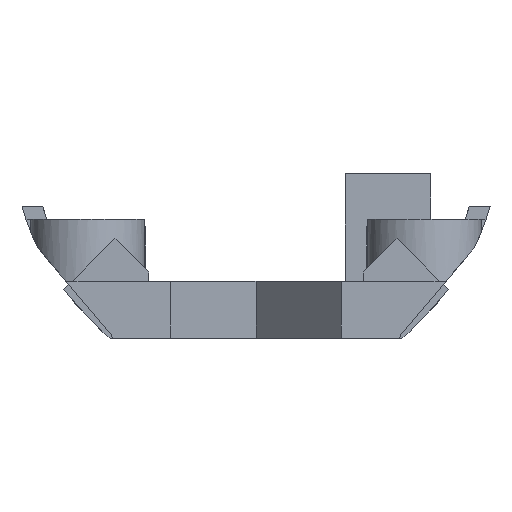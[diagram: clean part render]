
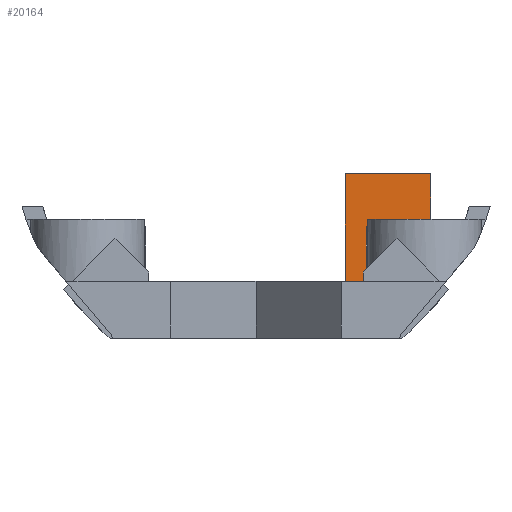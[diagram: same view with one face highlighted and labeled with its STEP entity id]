
A CAD part, left-side view. The second image highlights one B-rep face of the part: STEP entity #20164.
In plain terms, the highlighted planar face has unit normal (-1, 0, 0).
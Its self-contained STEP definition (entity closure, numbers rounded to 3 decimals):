
#32 = PLANE('',#33);
#33 = AXIS2_PLACEMENT_3D('',#34,#35,#36);
#34 = CARTESIAN_POINT('',(71.,-22.,-10.8));
#35 = DIRECTION('',(0.,0.,-1.));
#36 = DIRECTION('',(1.,0.,0.));
#1536 = PLANE('',#1537);
#1537 = AXIS2_PLACEMENT_3D('',#1538,#1539,#1540);
#1538 = CARTESIAN_POINT('',(66.,-59.724,44.8));
#1539 = DIRECTION('',(-0.,0.766,0.643));
#1540 = DIRECTION('',(0.,0.643,-0.766));
#1686 = VERTEX_POINT('',#1687);
#1687 = CARTESIAN_POINT('',(171.5,-6.9,-10.8));
#1701 = PLANE('',#1702);
#1702 = AXIS2_PLACEMENT_3D('',#1703,#1704,#1705);
#1703 = CARTESIAN_POINT('',(171.5,-6.9,-11.3));
#1704 = DIRECTION('',(-0.,1.,0.));
#1705 = DIRECTION('',(0.,0.,1.));
#1712 = EDGE_CURVE('',#1686,#1713,#1715,.T.);
#1713 = VERTEX_POINT('',#1714);
#1714 = CARTESIAN_POINT('',(171.5,-13.078,-10.8));
#1715 = SURFACE_CURVE('',#1716,(#1720,#1727),.PCURVE_S1.);
#1716 = LINE('',#1717,#1718);
#1717 = CARTESIAN_POINT('',(171.5,-17.75,-10.8));
#1718 = VECTOR('',#1719,1.);
#1719 = DIRECTION('',(0.,-1.,0.));
#1720 = PCURVE('',#32,#1721);
#1721 = DEFINITIONAL_REPRESENTATION('',(#1722),#1726);
#1722 = LINE('',#1723,#1724);
#1723 = CARTESIAN_POINT('',(100.5,-4.25));
#1724 = VECTOR('',#1725,1.);
#1725 = DIRECTION('',(0.,1.));
#1726 = ( GEOMETRIC_REPRESENTATION_CONTEXT(2) 
PARAMETRIC_REPRESENTATION_CONTEXT() REPRESENTATION_CONTEXT('2D SPACE',''
  ) );
#1727 = PCURVE('',#1728,#1733);
#1728 = PLANE('',#1729);
#1729 = AXIS2_PLACEMENT_3D('',#1730,#1731,#1732);
#1730 = CARTESIAN_POINT('',(171.5,-13.5,-11.3));
#1731 = DIRECTION('',(1.,0.,-0.));
#1732 = DIRECTION('',(0.,0.,1.));
#1733 = DEFINITIONAL_REPRESENTATION('',(#1734),#1737);
#1734 = B_SPLINE_CURVE_WITH_KNOTS('',1,(#1735,#1736),.UNSPECIFIED.,.F.,
  .F.,(2,2),(-10.85,-4.25),.PIECEWISE_BEZIER_KNOTS.);
#1735 = CARTESIAN_POINT('',(0.5,-6.6));
#1736 = CARTESIAN_POINT('',(0.5,0.));
#1737 = ( GEOMETRIC_REPRESENTATION_CONTEXT(2) 
PARAMETRIC_REPRESENTATION_CONTEXT() REPRESENTATION_CONTEXT('2D SPACE',''
  ) );
#20164 = ADVANCED_FACE('',(#20165),#1728,.F.);
#20165 = FACE_BOUND('',#20166,.F.);
#20166 = EDGE_LOOP('',(#20167,#20197,#20216,#20217,#20240));
#20167 = ORIENTED_EDGE('',*,*,#20168,.F.);
#20168 = EDGE_CURVE('',#20169,#20171,#20173,.T.);
#20169 = VERTEX_POINT('',#20170);
#20170 = CARTESIAN_POINT('',(171.5,-13.5,-10.297));
#20171 = VERTEX_POINT('',#20172);
#20172 = CARTESIAN_POINT('',(171.5,-13.5,-2.5));
#20173 = SURFACE_CURVE('',#20174,(#20178,#20185),.PCURVE_S1.);
#20174 = LINE('',#20175,#20176);
#20175 = CARTESIAN_POINT('',(171.5,-13.5,-11.3));
#20176 = VECTOR('',#20177,1.);
#20177 = DIRECTION('',(0.,0.,1.));
#20178 = PCURVE('',#1728,#20179);
#20179 = DEFINITIONAL_REPRESENTATION('',(#20180),#20184);
#20180 = LINE('',#20181,#20182);
#20181 = CARTESIAN_POINT('',(0.,0.));
#20182 = VECTOR('',#20183,1.);
#20183 = DIRECTION('',(1.,0.));
#20184 = ( GEOMETRIC_REPRESENTATION_CONTEXT(2) 
PARAMETRIC_REPRESENTATION_CONTEXT() REPRESENTATION_CONTEXT('2D SPACE',''
  ) );
#20185 = PCURVE('',#20186,#20191);
#20186 = PLANE('',#20187);
#20187 = AXIS2_PLACEMENT_3D('',#20188,#20189,#20190);
#20188 = CARTESIAN_POINT('',(171.5,-13.5,-11.3));
#20189 = DIRECTION('',(-0.,1.,0.));
#20190 = DIRECTION('',(0.,0.,1.));
#20191 = DEFINITIONAL_REPRESENTATION('',(#20192),#20196);
#20192 = LINE('',#20193,#20194);
#20193 = CARTESIAN_POINT('',(0.,0.));
#20194 = VECTOR('',#20195,1.);
#20195 = DIRECTION('',(1.,0.));
#20196 = ( GEOMETRIC_REPRESENTATION_CONTEXT(2) 
PARAMETRIC_REPRESENTATION_CONTEXT() REPRESENTATION_CONTEXT('2D SPACE',''
  ) );
#20197 = ORIENTED_EDGE('',*,*,#20198,.T.);
#20198 = EDGE_CURVE('',#20169,#1713,#20199,.T.);
#20199 = SURFACE_CURVE('',#20200,(#20204,#20210),.PCURVE_S1.);
#20200 = LINE('',#20201,#20202);
#20201 = CARTESIAN_POINT('',(171.5,-36.365,16.957));
#20202 = VECTOR('',#20203,1.);
#20203 = DIRECTION('',(-0.,0.643,-0.766));
#20204 = PCURVE('',#1728,#20205);
#20205 = DEFINITIONAL_REPRESENTATION('',(#20206),#20209);
#20206 = B_SPLINE_CURVE_WITH_KNOTS('',1,(#20207,#20208),.UNSPECIFIED.,
  .F.,.F.,(2,2),(35.575,36.232),
  .PIECEWISE_BEZIER_KNOTS.);
#20207 = CARTESIAN_POINT('',(1.003,0.));
#20208 = CARTESIAN_POINT('',(0.5,-0.422));
#20209 = ( GEOMETRIC_REPRESENTATION_CONTEXT(2) 
PARAMETRIC_REPRESENTATION_CONTEXT() REPRESENTATION_CONTEXT('2D SPACE',''
  ) );
#20210 = PCURVE('',#1536,#20211);
#20211 = DEFINITIONAL_REPRESENTATION('',(#20212),#20215);
#20212 = B_SPLINE_CURVE_WITH_KNOTS('',1,(#20213,#20214),.UNSPECIFIED.,
  .F.,.F.,(2,2),(35.575,36.232),
  .PIECEWISE_BEZIER_KNOTS.);
#20213 = CARTESIAN_POINT('',(71.919,-105.5));
#20214 = CARTESIAN_POINT('',(72.576,-105.5));
#20215 = ( GEOMETRIC_REPRESENTATION_CONTEXT(2) 
PARAMETRIC_REPRESENTATION_CONTEXT() REPRESENTATION_CONTEXT('2D SPACE',''
  ) );
#20216 = ORIENTED_EDGE('',*,*,#1712,.F.);
#20217 = ORIENTED_EDGE('',*,*,#20218,.T.);
#20218 = EDGE_CURVE('',#1686,#20219,#20221,.T.);
#20219 = VERTEX_POINT('',#20220);
#20220 = CARTESIAN_POINT('',(171.5,-6.9,-2.5));
#20221 = SURFACE_CURVE('',#20222,(#20226,#20233),.PCURVE_S1.);
#20222 = LINE('',#20223,#20224);
#20223 = CARTESIAN_POINT('',(171.5,-6.9,-11.3));
#20224 = VECTOR('',#20225,1.);
#20225 = DIRECTION('',(0.,0.,1.));
#20226 = PCURVE('',#1728,#20227);
#20227 = DEFINITIONAL_REPRESENTATION('',(#20228),#20232);
#20228 = LINE('',#20229,#20230);
#20229 = CARTESIAN_POINT('',(0.,-6.6));
#20230 = VECTOR('',#20231,1.);
#20231 = DIRECTION('',(1.,0.));
#20232 = ( GEOMETRIC_REPRESENTATION_CONTEXT(2) 
PARAMETRIC_REPRESENTATION_CONTEXT() REPRESENTATION_CONTEXT('2D SPACE',''
  ) );
#20233 = PCURVE('',#1701,#20234);
#20234 = DEFINITIONAL_REPRESENTATION('',(#20235),#20239);
#20235 = LINE('',#20236,#20237);
#20236 = CARTESIAN_POINT('',(0.,0.));
#20237 = VECTOR('',#20238,1.);
#20238 = DIRECTION('',(1.,0.));
#20239 = ( GEOMETRIC_REPRESENTATION_CONTEXT(2) 
PARAMETRIC_REPRESENTATION_CONTEXT() REPRESENTATION_CONTEXT('2D SPACE',''
  ) );
#20240 = ORIENTED_EDGE('',*,*,#20241,.F.);
#20241 = EDGE_CURVE('',#20171,#20219,#20242,.T.);
#20242 = SURFACE_CURVE('',#20243,(#20247,#20254),.PCURVE_S1.);
#20243 = LINE('',#20244,#20245);
#20244 = CARTESIAN_POINT('',(171.5,-13.5,-2.5));
#20245 = VECTOR('',#20246,1.);
#20246 = DIRECTION('',(-0.,1.,0.));
#20247 = PCURVE('',#1728,#20248);
#20248 = DEFINITIONAL_REPRESENTATION('',(#20249),#20253);
#20249 = LINE('',#20250,#20251);
#20250 = CARTESIAN_POINT('',(8.8,0.));
#20251 = VECTOR('',#20252,1.);
#20252 = DIRECTION('',(0.,-1.));
#20253 = ( GEOMETRIC_REPRESENTATION_CONTEXT(2) 
PARAMETRIC_REPRESENTATION_CONTEXT() REPRESENTATION_CONTEXT('2D SPACE',''
  ) );
#20254 = PCURVE('',#20255,#20260);
#20255 = PLANE('',#20256);
#20256 = AXIS2_PLACEMENT_3D('',#20257,#20258,#20259);
#20257 = CARTESIAN_POINT('',(171.5,-13.5,-2.5));
#20258 = DIRECTION('',(0.,0.,1.));
#20259 = DIRECTION('',(1.,0.,-0.));
#20260 = DEFINITIONAL_REPRESENTATION('',(#20261),#20265);
#20261 = LINE('',#20262,#20263);
#20262 = CARTESIAN_POINT('',(0.,0.));
#20263 = VECTOR('',#20264,1.);
#20264 = DIRECTION('',(0.,1.));
#20265 = ( GEOMETRIC_REPRESENTATION_CONTEXT(2) 
PARAMETRIC_REPRESENTATION_CONTEXT() REPRESENTATION_CONTEXT('2D SPACE',''
  ) );
